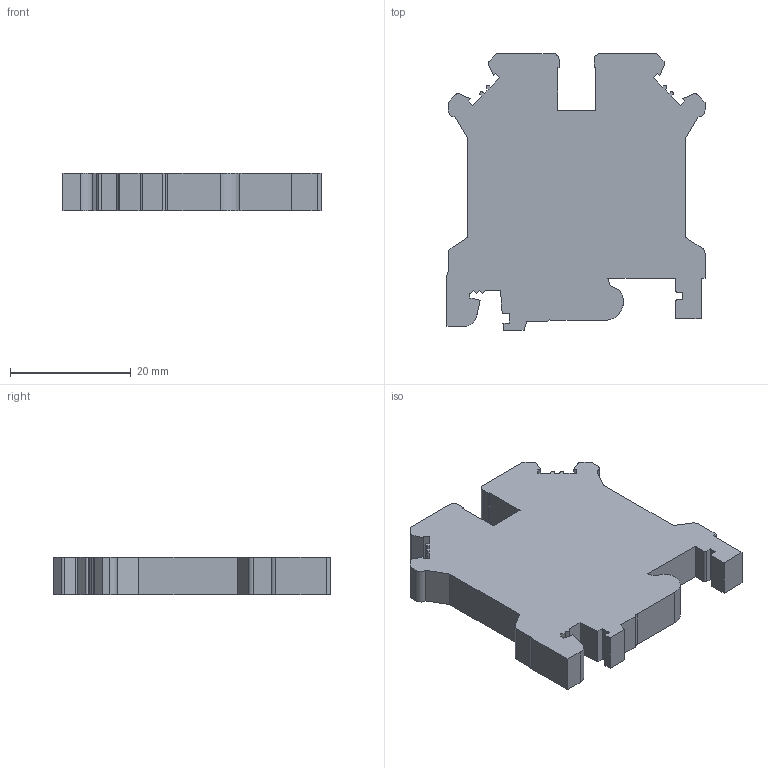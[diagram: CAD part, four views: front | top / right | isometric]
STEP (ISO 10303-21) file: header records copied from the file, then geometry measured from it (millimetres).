
FILE_DESCRIPTION(/* description */ (''),/* implementation_level */ '2;1');
FILE_NAME(/* name */ 'JUT1-4PE.stp',/* time_stamp */ '2023-02-14T15:24:59+08:00',/* author */ (''),/* organization */ (''),/* preprocessor_version */ 'ST-DEVELOPER v16.7',/* originating_system */ 'SIEMENS PLM Software NX 12.0',/* authorisation */ '');
FILE_SCHEMA (('AP203_CONFIGURATION_CONTROLLED_3D_DESIGN_OF_MECHANICAL_PARTS_AND_ASSEMBLIES_MIM_LF { 1 0 10303 403 2 1 2}'));
Length unit declared in the file: millimetre
Products named in the file (1): Admi01CC23451nuo
Bounding box: 42.7 x 45.8 x 6.2 mm (x, y, z)
Volume: 9307.5 mm3; surface area: 4508.7 mm2
Topology: 1 solids, 1 shells, 104 faces, 306 edges, 204 vertices
Faces by surface type: plane 84, cylinder 20
Entity records: 3532 total; most frequent: CARTESIAN_POINT 615, ORIENTED_EDGE 612, DIRECTION 556, EDGE_CURVE 306, LINE 266, VECTOR 266, VERTEX_POINT 204, AXIS2_PLACEMENT_3D 145
